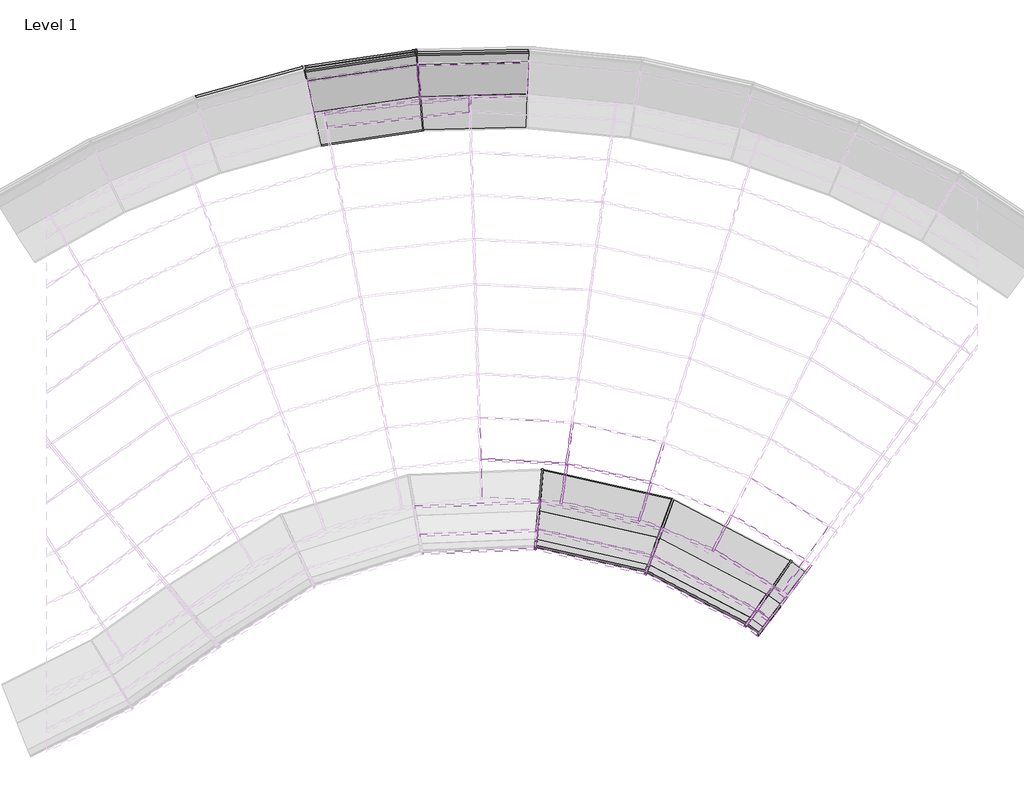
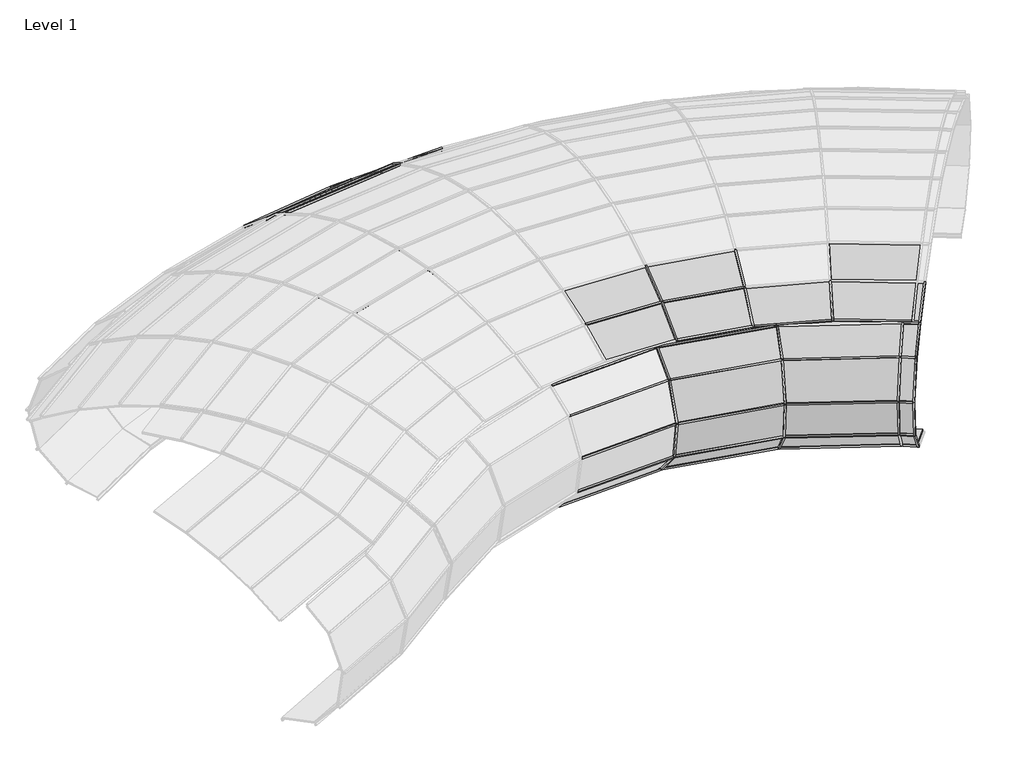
# One storey, part 10 of 23: 65 members, 34 plates.
"""IFC4 building model written with IfcOpenShell, lengths in millimetres."""

from ifc_helpers import new_model, si_unit, origin, place, context, project, spatial, transform, mapped, element, save
from components import member_a1596450, member_54d4a950, member_a2486feb, member_89e98a43, member_bff08ed3, member_4c2c1438, member_ab9de9a3, member_4657b864, member_20147643, member_c3b58052, member_3a0dd7d7, member_dc232313, member_f0155a20, member_775132e8, member_15538b30, member_b171f0c8, member_07455e61, member_515abc7c, member_6834bcaf, member_a3fa0b53, member_b335b832, member_d6b8231b, member_649bdf5e, member_35237229, member_65ac7dc4, member_b70cd57a, member_0f5467c3, member_8c9da58c, member_391bee44, member_01ebdf2a, member_ff9adfd2, member_0cd36c09, member_e4cc2466, system_panel_glazed_7c909565, system_panel_glazed_945bf34b, system_panel_glazed_45ca7c27, system_panel_glazed_a1cfa193, system_panel_glazed_82840720, system_panel_glazed_bab3f386, system_panel_glazed_217bc4a3, system_panel_glazed_956d20dc, system_panel_glazed_a2d5a43f, system_panel_glazed_a2ddec3e, system_panel_glazed_d9dfaa20, system_panel_glazed_a0058e6f, system_panel_glazed_11031df9, system_panel_glazed_45b4e97c, system_panel_glazed_9a1bcf3f, system_panel_glazed_a2a57e74, system_panel_glazed_56180ac8, system_panel_glazed_7dd4ad5a, system_panel_glazed_672f498d

model = new_model("IFC4")

# Units and contexts
model_context = context("Model", 3, world=origin())
ifc_project = project(units=[si_unit("LENGTHUNIT", "METRE", prefix="MILLI")], contexts=[model_context])

# Site, building, storey
site = spatial("IfcSite", under=ifc_project)
building = spatial("IfcBuilding", under=site)
storey = spatial("IfcBuildingStorey", under=building, Name="Level 1", Elevation=0.0)

# Members
placement = place(None, origin())
member_shape = member_a1596450(model_context)
element("IfcMember", 1, ObjectType="Rectangular Mullion : 1\" Square", at=placement, inside=storey, context=model_context, shape_type="MappedRepresentation", body=[
    mapped(member_shape, transform((1937.8242171, -7608.1808848, 629.7792003), x_axis=(-0.09290409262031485, -0.4128159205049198, 0.9060639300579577), y_axis=(-0.19893388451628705, -0.8839554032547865, -0.4231408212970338), z_axis=(0.9755993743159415, -0.21955833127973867, 0.0))),
])
element("IfcMember", 2, ObjectType="Rectangular Mullion : 1\" Square", at=placement, inside=storey, context=model_context, shape_type="MappedRepresentation", body=[
    mapped(member_shape, transform((430.780423, -7272.382286, 629.7792003), x_axis=(0.01683445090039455, -0.4228058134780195, 0.9060639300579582), y_axis=(0.036047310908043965, -0.9053465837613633, -0.42314082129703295), z_axis=(0.9992082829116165, 0.03978451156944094, 0.0))),
])
element("IfcMember", 3, ObjectType="Rectangular Mullion : 1\" Square", at=placement, inside=storey, context=model_context, shape_type="MappedRepresentation", body=[
    mapped(member_shape, transform((3307.0644921, -8321.7092764, 629.7792003), x_axis=(-0.19634224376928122, -0.3748304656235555, 0.9060639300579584), y_axis=(-0.42042416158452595, -0.8026178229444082, -0.4231408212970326), z_axis=(0.8858291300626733, -0.46401158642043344, 0.0))),
])
member_2_shape = member_54d4a950(model_context)
element("IfcMember", 4, ObjectType="Rectangular Mullion : 1\" Square", at=placement, inside=storey, context=model_context, shape_type="MappedRepresentation", body=[
    mapped(member_2_shape, transform((3720.0943333, -8124.4965776, 170.8694653), x_axis=(-0.49772434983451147, -0.6800295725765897, 0.5383588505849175), y_axis=(-0.31796525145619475, -0.434428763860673, -0.8427156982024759), z_axis=(0.8069501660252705, -0.590619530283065, 0.0))),
])
member_3_shape = member_a2486feb(model_context)
element("IfcMember", 5, ObjectType="Rectangular Mullion : 1\" Square", at=placement, inside=storey, context=model_context, shape_type="MappedRepresentation", body=[
    mapped(member_3_shape, transform((3537.9538895, -7993.5262462, 170.8694653), x_axis=(-0.39171959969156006, -0.7478188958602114, 0.5360248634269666), y_axis=(-0.2487217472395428, -0.4748264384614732, -0.8442021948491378), z_axis=(0.8858291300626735, -0.4640115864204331, 0.0))),
])
element("IfcMember", 6, ObjectType="Rectangular Mullion : 1\" Square", at=placement, inside=storey, context=model_context, shape_type="MappedRepresentation", body=[
    mapped(member_3_shape, transform((2076.1483229, -7231.5106618, 170.8694653), x_axis=(-0.1853516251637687, -0.8236031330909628, 0.536024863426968), y_axis=(-0.11768872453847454, -0.522945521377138, -0.8442021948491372), z_axis=(0.9755993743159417, -0.21955833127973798, 0.0))),
])
element("IfcMember", 7, ObjectType="Rectangular Mullion : 1\" Square", at=placement, inside=storey, context=model_context, shape_type="MappedRepresentation", body=[
    mapped(member_3_shape, transform((467.1586371, -6872.7691723, 170.8694653), x_axis=(0.033586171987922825, -0.8435338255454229, 0.5360248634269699), y_axis=(0.021325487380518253, -0.5356004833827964, -0.8442021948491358), z_axis=(0.9992082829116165, 0.03978451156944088, 0.0))),
])
member_4_shape = member_89e98a43(model_context)
element("IfcMember", 8, ObjectType="Rectangular Mullion : 1\" Square", at=placement, inside=storey, context=model_context, shape_type="MappedRepresentation", body=[
    mapped(member_4_shape, transform((3571.6491551, -8319.5415222, 1789.6405438), x_axis=(0.38131745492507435, 0.5209854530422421, 0.7636564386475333), y_axis=(-0.45103040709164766, -0.6162326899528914, 0.6456228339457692), z_axis=(0.8069501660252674, -0.5906195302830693, 0.0))),
])
member_5_shape = member_bff08ed3(model_context)
element("IfcMember", 9, ObjectType="Rectangular Mullion : 1\" Square", at=placement, inside=storey, context=model_context, shape_type="MappedRepresentation", body=[
    mapped(member_5_shape, transform((545.2888209, -6292.2989472, 0.0), x_axis=(0.21061428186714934, 0.9358568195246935, -0.28251307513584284), y_axis=(-0.06202809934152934, -0.2756195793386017, -0.9592634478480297), z_axis=(-0.9755993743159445, 0.21955833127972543, 0.0))),
])
member_6_shape = member_4c2c1438(model_context)
element("IfcMember", 10, ObjectType="Rectangular Mullion : 1\" Square", at=placement, inside=storey, context=model_context, shape_type="MappedRepresentation", body=[
    mapped(member_6_shape, transform((422.5065991, -7363.2698842, 1232.5089476), x_axis=(-0.005343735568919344, 0.13421064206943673, 0.9909384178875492), y_axis=(0.0394240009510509, -0.990153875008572, 0.13431698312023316), z_axis=(0.9992082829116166, 0.039784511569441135, 0.0))),
])
element("IfcMember", 11, ObjectType="Rectangular Mullion : 1\" Square", at=placement, inside=storey, context=model_context, shape_type="MappedRepresentation", body=[
    mapped(member_6_shape, transform((1906.3639239, -7693.8503754, 1232.5089476), x_axis=(0.02949041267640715, 0.13103956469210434, 0.9909384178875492), y_axis=(-0.21756878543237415, -0.9667589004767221, 0.13431698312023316), z_axis=(0.9755993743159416, -0.21955833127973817, 0.0))),
])
element("IfcMember", 12, ObjectType="Rectangular Mullion : 1\" Square", at=placement, inside=storey, context=model_context, shape_type="MappedRepresentation", body=[
    mapped(member_6_shape, transform((3254.5512436, -8396.3508895, 1232.5089476), x_axis=(0.062324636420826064, 0.11898189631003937, 0.9909384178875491), y_axis=(-0.4598069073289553, -0.87780211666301, 0.1343169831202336), z_axis=(0.8858291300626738, -0.46401158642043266, 0.0))),
])
member_7_shape = member_ab9de9a3(model_context)
element("IfcMember", 13, ObjectType="Rectangular Mullion : 1\" Square", at=placement, inside=storey, context=model_context, shape_type="MappedRepresentation", body=[
    mapped(member_7_shape, transform((3421.8046036, -8516.4251299, 1232.5089476), x_axis=(0.0787840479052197, 0.10764087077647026, 0.9910633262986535), y_axis=(-0.5853413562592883, -0.7997387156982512, 0.1333922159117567), z_axis=(0.8069501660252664, -0.5906195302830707, 0.0))),
])
member_8_shape = member_4657b864(model_context)
element("IfcMember", 14, ObjectType="Rectangular Mullion : 1\" Square", at=placement, inside=storey, context=model_context, shape_type="MappedRepresentation", body=[
    mapped(member_8_shape, transform((444.9373567, -7116.8689799, 1789.6405438), x_axis=(-0.02578620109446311, 0.6476335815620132, 0.7615154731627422), y_axis=(0.030296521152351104, -0.7609125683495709, 0.6481467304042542), z_axis=(0.9992082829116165, 0.03978451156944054, 0.0))),
])
element("IfcMember", 15, ObjectType="Rectangular Mullion : 1\" Square", at=placement, inside=storey, context=model_context, shape_type="MappedRepresentation", body=[
    mapped(member_8_shape, transform((1991.65438, -7461.5960263, 1789.6405438), x_axis=(0.14230601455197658, 0.6323315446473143, 0.7615154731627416), y_axis=(-0.16719706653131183, -0.7429340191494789, 0.648146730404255), z_axis=(0.9755993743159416, -0.21955833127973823, 0.0))),
])
element("IfcMember", 16, ObjectType="Rectangular Mullion : 1\" Square", at=placement, inside=storey, context=model_context, shape_type="MappedRepresentation", body=[
    mapped(member_8_shape, transform((3396.917333, -8193.9936778, 1789.6405438), x_axis=(0.30074759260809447, 0.574147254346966, 0.7615154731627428), y_axis=(-0.353352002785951, -0.6745725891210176, 0.6481467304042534), z_axis=(0.8858291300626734, -0.4640115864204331, 0.0))),
])
member_9_shape = member_20147643(model_context)
element("IfcMember", 17, ObjectType="Rectangular Mullion : 1\" Square", at=placement, inside=storey, context=model_context, shape_type="MappedRepresentation", body=[
    mapped(member_9_shape, transform((3477.0763625, -8443.802514, 629.7792003), x_axis=(-0.24849482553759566, -0.3395128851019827, 0.9071831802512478), y_axis=(-0.535800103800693, -0.7320516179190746, -0.4207358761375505), z_axis=(0.8069501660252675, -0.5906195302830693, 0.0))),
])
member_10_shape = member_c3b58052(model_context)
element("IfcMember", 18, ObjectType="Rectangular Mullion : 1\" Square", at=placement, inside=storey, context=model_context, shape_type="MappedRepresentation", body=[
    mapped(member_10_shape, transform((3813.2347181, -8002.1176536, 2085.6089632), x_axis=(0.4742900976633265, 0.6480118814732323, 0.5959274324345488), y_axis=(-0.3519663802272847, -0.4808837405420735, 0.8030382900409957), z_axis=(0.8069501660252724, -0.5906195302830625, 0.0))),
])
member_11_shape = member_3a0dd7d7(model_context)
element("IfcMember", 19, ObjectType="Rectangular Mullion : 1\" Square", at=placement, inside=storey, context=model_context, shape_type="MappedRepresentation", body=[
    mapped(member_11_shape, transform((481.1011487, -6719.6112842, 2085.6089632), x_axis=(-0.03185310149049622, 0.8000068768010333, 0.599144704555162), y_axis=(0.02383667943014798, -0.5986703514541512, 0.8006407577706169), z_axis=(0.9992082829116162, 0.03978451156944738, 0.0))),
])
element("IfcMember", 20, ObjectType="Rectangular Mullion : 1\" Square", at=placement, inside=storey, context=model_context, shape_type="MappedRepresentation", body=[
    mapped(member_11_shape, transform((2129.1631695, -7087.1459903, 2085.6089632), x_axis=(0.175787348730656, 0.7811046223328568, 0.5991447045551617), y_axis=(-0.1315472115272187, -0.5845251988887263, 0.8006407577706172), z_axis=(0.9755993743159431, -0.21955833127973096, 0.0))),
])
member_12_shape = member_dc232313(model_context)
element("IfcMember", 21, ObjectType="Rectangular Mullion : 1\" Square", at=placement, inside=storey, context=model_context, shape_type="MappedRepresentation", body=[
    mapped(member_12_shape, transform((1981.7156999, -6472.7178899, 2378.3537392), x_axis=(0.19667028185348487, 0.8830510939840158, 0.42607694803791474), y_axis=(-0.09262505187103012, -0.4158872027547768, 0.904686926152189), z_axis=(0.9760847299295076, -0.21739043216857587, 0.0))),
])
element("IfcMember", 22, ObjectType="Rectangular Mullion : 1\" Square", at=placement, inside=storey, context=model_context, shape_type="MappedRepresentation", body=[
    mapped(member_12_shape, transform((846.6753747, -6222.0725929, 2378.3537392), x_axis=(0.04824525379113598, 0.9033995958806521, 0.42607694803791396), y_axis=(-0.022721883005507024, -0.4254706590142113, 0.9046869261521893), z_axis=(0.9985770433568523, -0.05332812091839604, 0.0))),
])
member_13_shape = member_f0155a20(model_context)
element("IfcMember", 23, ObjectType="Rectangular Mullion : 1\" Square", at=placement, inside=storey, context=model_context, shape_type="MappedRepresentation", body=[
    mapped(member_13_shape, transform((-452.7880414, -1470.8365713, 2208.6526723), x_axis=(-0.09781407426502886, 0.8663052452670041, -0.4898444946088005), y_axis=(-0.054958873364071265, 0.48675163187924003, 0.8718098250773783), z_axis=(0.9936860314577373, 0.11219657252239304, 0.0))),
])
member_14_shape = member_775132e8(model_context)
element("IfcMember", 24, ObjectType="Rectangular Mullion : 1\" Square", at=placement, inside=storey, context=model_context, shape_type="MappedRepresentation", body=[
    mapped(member_14_shape, transform((-458.8914905, -1264.2798166, 2085.6089632), x_axis=(-0.09631462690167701, 0.8530251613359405, -0.5129050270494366), y_axis=(-0.05754618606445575, 0.5096665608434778, 0.8584453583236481), z_axis=(0.9936860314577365, 0.11219657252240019, 0.0))),
])
member_15_shape = member_15538b30(model_context)
element("IfcMember", 25, ObjectType="Rectangular Mullion : 1\" Square", at=placement, inside=storey, context=model_context, shape_type="MappedRepresentation", body=[
    mapped(member_15_shape, transform((799.1265111, -6755.2634581, 2085.6089632), x_axis=(-0.1905314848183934, -0.855487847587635, -0.4814958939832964), y_axis=(-0.10467260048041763, -0.469980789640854, 0.8764483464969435), z_axis=(-0.9760847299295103, 0.21739043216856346, 0.0))),
])
element("IfcMember", 26, ObjectType="Rectangular Mullion : 1\" Square", at=placement, inside=storey, context=model_context, shape_type="MappedRepresentation", body=[
    mapped(member_15_shape, transform((1846.8271886, -6990.7511733, 2085.6089632), x_axis=(-0.32909880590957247, -0.8123150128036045, -0.481495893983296), y_axis=(-0.1807975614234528, -0.44626285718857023, 0.8764483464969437), z_axis=(-0.9268258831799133, 0.37549138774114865, 0.0))),
])
element("IfcMember", 27, ObjectType="Rectangular Mullion : 1\" Square", at=placement, inside=storey, context=model_context, shape_type="MappedRepresentation", body=[
    mapped(member_15_shape, transform((2841.3005164, -7395.9103693, 2085.6089632), x_axis=(-0.4586414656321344, -0.7468665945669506, -0.4814958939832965), y_axis=(-0.2519646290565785, -0.4103073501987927, 0.8764483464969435), z_axis=(-0.8521512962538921, 0.5232954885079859, 0.0))),
])
member_16_shape = member_b171f0c8(model_context)
element("IfcMember", 28, ObjectType="Rectangular Mullion : 1\" Square", at=placement, inside=storey, context=model_context, shape_type="MappedRepresentation", body=[
    mapped(member_16_shape, transform((-2688.7292646, -873.3181719, 1116.1918244), x_axis=(-0.007013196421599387, 0.025585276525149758, -0.9996480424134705), y_axis=(-0.264265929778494, 0.9640849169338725, 0.02652906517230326), z_axis=(0.9644243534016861, 0.26435897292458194, 0.0))),
])
element("IfcMember", 29, ObjectType="Rectangular Mullion : 1\" Square", at=placement, inside=storey, context=model_context, shape_type="MappedRepresentation", body=[
    mapped(member_16_shape, transform((-1178.613692, -649.6002551, 1116.1918244), x_axis=(-0.0038612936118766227, 0.02624655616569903, -0.9996480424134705), y_axis=(-0.1454983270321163, 0.9890027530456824, 0.026529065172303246), z_axis=(0.9893509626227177, 0.14554955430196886, 0.0))),
])
member_17_shape = member_07455e61(model_context)
element("IfcMember", 30, ObjectType="Rectangular Mullion : 1\" Square", at=placement, inside=storey, context=model_context, shape_type="MappedRepresentation", body=[
    mapped(member_17_shape, transform((-1165.3754738, -804.359432, 526.7119632), x_axis=(0.0751931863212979, -0.5111142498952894, -0.8562173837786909), y_axis=(-0.12462205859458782, 0.8470994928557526, -0.5166157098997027), z_axis=(0.9893509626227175, 0.14554955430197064, 0.0))),
])
member_18_shape = member_515abc7c(model_context)
element("IfcMember", 31, ObjectType="Rectangular Mullion : 1\" Square", at=placement, inside=storey, context=model_context, shape_type="MappedRepresentation", body=[
    mapped(member_18_shape, transform((-1162.7358687, -835.2172935, 1696.6281859), x_axis=(-0.08168989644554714, 0.5552746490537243, -0.8276453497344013), y_axis=(-0.12046341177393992, 0.8188317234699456, 0.5612514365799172), z_axis=(0.9893509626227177, 0.1455495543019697, 0.0))),
])
member_19_shape = member_6834bcaf(model_context)
element("IfcMember", 32, ObjectType="Rectangular Mullion : 1\" Square", at=placement, inside=storey, context=model_context, shape_type="MappedRepresentation", body=[
    mapped(member_19_shape, transform((-1127.1815513, -1250.8590977, 113.4427618), x_axis=(0.13045184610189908, -0.8867265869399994, -0.4435067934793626), y_axis=(-0.06455221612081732, 0.4387838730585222, -0.8962710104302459), z_axis=(0.9893509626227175, 0.14554955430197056, 0.0))),
])
member_20_shape = member_a3fa0b53(model_context)
element("IfcMember", 33, ObjectType="Rectangular Mullion : 1\" Square", at=placement, inside=storey, context=model_context, shape_type="MappedRepresentation", body=[
    mapped(member_20_shape, transform((-1085.9662712, -1732.6794402, 0.0), x_axis=(0.1416890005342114, -0.9631094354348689, -0.22878907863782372), y_axis=(-0.033300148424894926, 0.22635269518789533, -0.9734760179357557), z_axis=(0.9893509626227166, 0.14554955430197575, 0.0))),
])
member_21_shape = member_b335b832(model_context)
element("IfcMember", 34, ObjectType="Rectangular Mullion : 1\" Square", at=placement, inside=storey, context=model_context, shape_type="MappedRepresentation", body=[
    mapped(member_21_shape, transform((-2529.287223, -1509.8042855, 2085.6089632), x_axis=(0.11198310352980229, -0.7611881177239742, 0.6387898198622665), y_axis=(-0.09297557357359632, 0.6319873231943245, 0.7693812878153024), z_axis=(-0.9893509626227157, -0.1455495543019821, 0.0))),
])
element("IfcMember", 35, ObjectType="Rectangular Mullion : 1\" Square", at=placement, inside=storey, context=model_context, shape_type="MappedRepresentation", body=[
    mapped(member_21_shape, transform((-1097.470967, -1300.7163704, 2085.6089632), x_axis=(0.01892306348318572, -0.7691485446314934, 0.6387898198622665), y_axis=(-0.015711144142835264, 0.6385965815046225, 0.7693812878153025), z_axis=(-0.9996974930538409, -0.02459516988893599, 0.0))),
])
member_22_shape = member_d6b8231b(model_context)
element("IfcMember", 36, ObjectType="Rectangular Mullion : 1\" Square", at=placement, inside=storey, context=model_context, shape_type="MappedRepresentation", body=[
    mapped(member_22_shape, transform((3885.9085112, -7520.8318934, 0.0), x_axis=(0.8178700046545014, -0.5754030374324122, 0.0), y_axis=(-0.1612841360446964, -0.22924706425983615, -0.9599131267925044), z_axis=(0.5523369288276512, 0.7850841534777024, -0.28029767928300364))),
])
element("IfcMember", 37, ObjectType="Rectangular Mullion : 1\" Square", at=placement, inside=storey, context=model_context, shape_type="MappedRepresentation", body=[
    mapped(member_22_shape, transform((532.8987089, -6289.5105564, 0.0), x_axis=(0.9958820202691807, -0.09065871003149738, 0.0), y_axis=(-0.02541142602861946, -0.27914341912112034, -0.9599131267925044), z_axis=(0.08702448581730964, 0.9559602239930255, -0.2802976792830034))),
])
member_23_shape = member_649bdf5e(model_context)
element("IfcMember", 38, ObjectType="Rectangular Mullion : 1\" Square", at=placement, inside=storey, context=model_context, shape_type="MappedRepresentation", body=[
    mapped(member_23_shape, transform((3740.5908675, -8139.4983136, 170.8694653), x_axis=(0.8020965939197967, -0.5971221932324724, 0.009281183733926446), y_axis=(-0.44465493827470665, -0.6075220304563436, -0.6581785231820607), z_axis=(0.39865152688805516, 0.5237958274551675, -0.7528046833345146))),
])
member_24_shape = member_35237229(model_context)
element("IfcMember", 39, ObjectType="Rectangular Mullion : 1\" Square", at=placement, inside=storey, context=model_context, shape_type="MappedRepresentation", body=[
    mapped(member_24_shape, transform((3497.5728968, -8458.8042501, 629.7792003), x_axis=(0.8066991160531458, -0.590955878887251, 0.002772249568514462), y_axis=(-0.5839654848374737, -0.79785889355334, -0.14968466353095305), z_axis=(0.09066889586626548, 0.11913158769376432, -0.9887299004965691))),
])
member_25_shape = member_65ac7dc4(model_context)
element("IfcMember", 40, ObjectType="Rectangular Mullion : 1\" Square", at=placement, inside=storey, context=model_context, shape_type="MappedRepresentation", body=[
    mapped(member_25_shape, transform((3442.3011378, -8531.4268659, 1232.5089476), x_axis=(0.8051049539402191, -0.5930916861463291, -0.0069472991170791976), y_axis=(-0.5398003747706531, -0.7375170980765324, 0.4058128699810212), z_axis=(-0.2458079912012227, -0.3229717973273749, -0.9139297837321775))),
])
member_26_shape = member_b70cd57a(model_context)
element("IfcMember", 41, ObjectType="Rectangular Mullion : 1\" Square", at=placement, inside=storey, context=model_context, shape_type="MappedRepresentation", body=[
    mapped(member_26_shape, transform((3592.1456893, -8334.5432583, 1789.6405438), x_axis=(0.7997252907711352, -0.6002991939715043, -0.008963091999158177), y_axis=(-0.35196638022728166, -0.480883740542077, 0.8030382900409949), z_axis=(-0.48637344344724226, -0.639055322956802, -0.5958600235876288))),
])
member_27_shape = member_0f5467c3(model_context)
element("IfcMember", 42, ObjectType="Rectangular Mullion : 1\" Square", at=placement, inside=storey, context=model_context, shape_type="MappedRepresentation", body=[
    mapped(member_27_shape, transform((3833.7312523, -8017.1193897, 2085.6089632), x_axis=(0.7969242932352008, -0.6040686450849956, -0.003569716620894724), y_axis=(-0.2875968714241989, -0.38459878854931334, 0.8771384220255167), z_axis=(-0.5312247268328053, -0.6979862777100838, -0.48022437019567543))),
])
member_28_shape = member_8c9da58c(model_context)
element("IfcMember", 43, ObjectType="Rectangular Mullion : 1\" Square", at=placement, inside=storey, context=model_context, shape_type="MappedRepresentation", body=[
    mapped(member_28_shape, transform((479.8485823, -6872.263909, 170.8694653), x_axis=(0.9958820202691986, -0.09065871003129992, 0.0), y_axis=(-0.06824830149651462, -0.7497046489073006, -0.6582439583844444), z_axis=(0.059675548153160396, 0.655533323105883, -0.7528046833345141))),
])
element("IfcMember", 44, ObjectType="Rectangular Mullion : 1\" Square", at=placement, inside=storey, context=model_context, shape_type="MappedRepresentation", body=[
    mapped(member_28_shape, transform((2088.538435, -7234.2990526, 170.8694653), x_axis=(0.9387056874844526, -0.3447196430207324, 0.0), y_axis=(-0.259506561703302, -0.7066620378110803, -0.6582439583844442), z_axis=(0.22690962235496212, 0.6178973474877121, -0.7528046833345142))),
])
element("IfcMember", 45, ObjectType="Rectangular Mullion : 1\" Square", at=placement, inside=storey, context=model_context, shape_type="MappedRepresentation", body=[
    mapped(member_28_shape, transform((443.4703682, -7271.8770227, 629.7792003), x_axis=(0.9958820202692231, -0.09065871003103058, 0.0), y_axis=(-0.08963697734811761, -0.9846583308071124, -0.1497103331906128), z_axis=(0.013572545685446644, 0.14909382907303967, -0.9887299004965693))),
])
element("IfcMember", 46, ObjectType="Rectangular Mullion : 1\" Square", at=placement, inside=storey, context=model_context, shape_type="MappedRepresentation", body=[
    mapped(member_28_shape, transform((1950.2143292, -7610.9692756, 629.7792003), x_axis=(0.9387056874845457, -0.3447196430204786, 0.0), y_axis=(-0.34083461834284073, -0.9281263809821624, -0.1497103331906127), z_axis=(0.05160809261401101, 0.14053394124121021, -0.9887299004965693))),
])
element("IfcMember", 47, ObjectType="Rectangular Mullion : 1\" Square", at=placement, inside=storey, context=model_context, shape_type="MappedRepresentation", body=[
    mapped(member_28_shape, transform((3318.3145221, -8327.6022236, 629.7792003), x_axis=(0.817870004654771, -0.575403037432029, 0.0), y_axis=(-0.568918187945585, -0.8086525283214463, -0.1497103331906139), z_axis=(0.08614378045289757, 0.12244359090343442, -0.9887299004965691))),
])
member_29_shape = member_391bee44(model_context)
element("IfcMember", 48, ObjectType="Rectangular Mullion : 1\" Square", at=placement, inside=storey, context=model_context, shape_type="MappedRepresentation", body=[
    mapped(member_29_shape, transform((435.1965443, -7362.7646209, 1232.5089476), x_axis=(0.9958820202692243, -0.09065871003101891, 0.0), y_axis=(-0.08285569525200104, -0.9101662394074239, 0.4058723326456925), z_axis=(-0.036795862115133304, -0.40420095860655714, -0.9139297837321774))),
])
element("IfcMember", 49, ObjectType="Rectangular Mullion : 1\" Square", at=placement, inside=storey, context=model_context, shape_type="MappedRepresentation", body=[
    mapped(member_29_shape, transform((1918.7540359, -7696.6387662, 1232.5089476), x_axis=(0.93870568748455, -0.34471964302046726, 0.0), y_axis=(-0.3150495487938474, -0.8579110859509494, 0.405872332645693), z_axis=(-0.13991216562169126, -0.38099466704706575, -0.9139297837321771))),
])
element("IfcMember", 50, ObjectType="Rectangular Mullion : 1\" Square", at=placement, inside=storey, context=model_context, shape_type="MappedRepresentation", body=[
    mapped(member_29_shape, transform((3265.8012735, -8402.2438366, 1232.5089476), x_axis=(0.8178700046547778, -0.5754030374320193, 0.0), y_axis=(-0.5258779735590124, -0.7474757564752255, 0.4058723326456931), z_axis=(-0.23354017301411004, -0.3319508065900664, -0.913929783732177))),
])
member_30_shape = member_01ebdf2a(model_context)
element("IfcMember", 51, ObjectType="Rectangular Mullion : 1\" Square", at=placement, inside=storey, context=model_context, shape_type="MappedRepresentation", body=[
    mapped(member_30_shape, transform((457.6273019, -7116.3637166, 1789.6405438), x_axis=(0.9958820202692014, -0.09065871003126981, 0.0), y_axis=(-0.05401990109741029, -0.5934062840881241, 0.8030883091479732), z_axis=(-0.0728069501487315, -0.7997812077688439, -0.5958600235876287))),
])
element("IfcMember", 52, ObjectType="Rectangular Mullion : 1\" Square", at=placement, inside=storey, context=model_context, shape_type="MappedRepresentation", body=[
    mapped(member_30_shape, transform((2004.0444921, -7464.3844172, 1789.6405438), x_axis=(0.938705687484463, -0.34471964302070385, 0.0), y_axis=(-0.205404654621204, -0.5593371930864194, 0.8030883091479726), z_axis=(-0.2768403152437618, -0.7538635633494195, -0.5958600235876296))),
])
element("IfcMember", 53, ObjectType="Rectangular Mullion : 1\" Square", at=placement, inside=storey, context=model_context, shape_type="MappedRepresentation", body=[
    mapped(member_30_shape, transform((3408.167363, -8199.8866249, 1789.6405438), x_axis=(0.8178700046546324, -0.5754030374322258, 0.0), y_axis=(-0.3428596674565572, -0.48733604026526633, 0.8030883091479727), z_axis=(-0.46209945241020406, -0.6568218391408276, -0.5958600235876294))),
])
member_31_shape = member_ff9adfd2(model_context)
element("IfcMember", 54, ObjectType="Rectangular Mullion : 1\" Square", at=placement, inside=storey, context=model_context, shape_type="MappedRepresentation", body=[
    mapped(member_31_shape, transform((-440.1682288, -1469.4116748, 2208.6526723), x_axis=(0.9995637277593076, 0.0295356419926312, 0.0), y_axis=(-0.015110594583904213, 0.5113822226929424, 0.8592205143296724), z_axis=(0.025377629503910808, -0.8588456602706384, 0.5116054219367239))),
])
member_32_shape = member_0cd36c09(model_context)
element("IfcMember", 55, ObjectType="Rectangular Mullion : 1\" Square", at=placement, inside=storey, context=model_context, shape_type="MappedRepresentation", body=[
    mapped(member_32_shape, transform((859.3573032, -6222.74986, 2378.3537392), x_axis=(0.9907327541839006, -0.13582565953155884, 0.0), y_axis=(-0.05057792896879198, -0.3689230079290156, 0.9280828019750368), z_axis=(-0.12605745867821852, -0.9194820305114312, -0.3723738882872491))),
])
element("IfcMember", 56, ObjectType="Rectangular Mullion : 1\" Square", at=placement, inside=storey, context=model_context, shape_type="MappedRepresentation", body=[
    mapped(member_32_shape, transform((1994.1119759, -6475.4787484, 2378.3537392), x_axis=(0.9547335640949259, -0.29746230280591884, 0.0), y_axis=(-0.11076719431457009, -0.3555178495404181, 0.9280828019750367), z_axis=(-0.2760696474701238, -0.8860718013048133, -0.37237388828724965))),
])
member_33_shape = member_e4cc2466(model_context)
element("IfcMember", 57, ObjectType="Rectangular Mullion : 1\" Square", at=placement, inside=storey, context=model_context, shape_type="MappedRepresentation", body=[
    mapped(member_33_shape, transform((2830.4781949, -7389.2645166, 2085.6089632), x_axis=(0.8925533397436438, -0.4509418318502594, 0.0), y_axis=(-0.21655325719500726, -0.42862586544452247, 0.8771456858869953), z_axis=(-0.3955416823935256, -0.7828993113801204, -0.48022437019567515))),
])
element("IfcMember", 58, ObjectType="Rectangular Mullion : 1\" Square", at=placement, inside=storey, context=model_context, shape_type="MappedRepresentation", body=[
    mapped(member_33_shape, transform((1835.0564999, -6985.9824326, 2085.6089632), x_axis=(0.9547335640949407, -0.29746230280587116, 0.0), y_axis=(-0.14284864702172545, -0.4584863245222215, 0.8771456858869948), z_axis=(-0.260917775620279, -0.8374404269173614, -0.4802243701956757))),
])
element("IfcMember", 59, ObjectType="Rectangular Mullion : 1\" Square", at=placement, inside=storey, context=model_context, shape_type="MappedRepresentation", body=[
    mapped(member_33_shape, transform((786.7302351, -6752.5025996, 2085.6089632), x_axis=(0.9907327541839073, -0.13582565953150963, 0.0), y_axis=(-0.06522679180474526, -0.4757740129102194, 0.8771456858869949), z_axis=(-0.11913889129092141, -0.8690169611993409, -0.48022437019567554))),
])
element("IfcMember", 60, ObjectType="Rectangular Mullion : 1\" Square", at=placement, inside=storey, context=model_context, shape_type="MappedRepresentation", body=[
    mapped(member_28_shape, transform((-2676.4810754, -869.9608129, 1116.1918244), x_axis=(0.9786921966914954, 0.20533286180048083, 0.0), y_axis=(-0.1985557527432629, 0.946389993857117, -0.25479715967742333), z_axis=(-0.05231822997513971, 0.24936799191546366, 0.9669945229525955))),
])
element("IfcMember", 61, ObjectType="Rectangular Mullion : 1\" Square", at=placement, inside=storey, context=model_context, shape_type="MappedRepresentation", body=[
    mapped(member_28_shape, transform((-1150.1711115, -833.3688141, 1696.6281859), x_axis=(0.9963613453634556, 0.08522951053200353, 0.0), y_axis=(-0.08115207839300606, 0.9486948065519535, 0.3056018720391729), z_axis=(0.026046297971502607, -0.304489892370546, 0.9521593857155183))),
])
element("IfcMember", 62, ObjectType="Rectangular Mullion : 1\" Square", at=placement, inside=storey, context=model_context, shape_type="MappedRepresentation", body=[
    mapped(member_28_shape, transform((-1166.0489348, -647.7517757, 1116.1918244), x_axis=(0.996361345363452, 0.08522951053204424, 0.0), y_axis=(-0.08241646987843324, 0.9634759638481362, -0.2547971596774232), z_axis=(-0.021716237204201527, 0.2538700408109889, 0.9669945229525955))),
])
element("IfcMember", 63, ObjectType="Rectangular Mullion : 1\" Square", at=placement, inside=storey, context=model_context, shape_type="MappedRepresentation", body=[
    mapped(member_29_shape, transform((-1152.8107166, -802.5109526, 526.7119632), x_axis=(0.99636134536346, 0.08522951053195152, 0.0), y_axis=(-0.057780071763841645, 0.6754682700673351, -0.7351218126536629), z_axis=(-0.06265407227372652, 0.7324469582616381, 0.6779350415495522))),
])
element("IfcMember", 64, ObjectType="Rectangular Mullion : 1\" Square", at=placement, inside=storey, context=model_context, shape_type="MappedRepresentation", body=[
    mapped(member_30_shape, transform((-1114.6167941, -1249.0106184, 113.4427618), x_axis=(0.9963613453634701, 0.08522951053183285, 0.0), y_axis=(-0.01946550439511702, 0.22755822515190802, -0.9735698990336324), z_axis=(-0.08297688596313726, 0.97002741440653, 0.2283892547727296))),
])
element("IfcMember", 65, ObjectType="Rectangular Mullion : 1\" Square", at=placement, inside=storey, context=model_context, shape_type="MappedRepresentation", body=[
    mapped(member_22_shape, transform((-1110.1671252, -1301.028729, 2085.6089632), x_axis=(0.9963613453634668, 0.08522951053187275, 0.0), y_axis=(-0.054384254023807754, 0.635770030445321, 0.7699602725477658), z_axis=(0.06562333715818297, -0.7671586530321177, 0.6380918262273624))),
])

# Plates
system_panel_glazed_shape = system_panel_glazed_7c909565(model_context)
element("IfcPlate", 66, ObjectType="System Panel : Glazed", at=placement, inside=storey, context=model_context, shape_type="MappedRepresentation", body=[
    mapped(system_panel_glazed_shape, transform((1406.2275667, -6511.0276299, 7.1758321), x_axis=(0.9755993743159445, -0.21955833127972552, 0.0), y_axis=(0.062028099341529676, 0.27561957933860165, 0.9592634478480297), z_axis=(-0.21061428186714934, -0.9358568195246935, 0.28251307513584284))),
])
element("IfcPlate", 67, ObjectType="System Panel : Glazed", at=placement, inside=storey, context=model_context, shape_type="MappedRepresentation", body=[
    mapped(system_panel_glazed_shape, transform((3076.776293, -7124.5010201, 7.1758321), x_axis=(0.8858291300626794, -0.464011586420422, 0.0), y_axis=(0.13108934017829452, 0.2502583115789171, 0.9592634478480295), z_axis=(-0.445109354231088, -0.8497435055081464, 0.2825130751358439))),
])
system_panel_glazed_2_shape = system_panel_glazed_945bf34b(model_context)
element("IfcPlate", 68, ObjectType="System Panel : Glazed", at=placement, inside=storey, context=model_context, shape_type="MappedRepresentation", body=[
    mapped(system_panel_glazed_2_shape, transform((3970.9203707, -7613.2677401, 7.1207118), x_axis=(0.8069501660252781, -0.5906195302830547, 0.0), y_axis=(0.1655760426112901, 0.22622281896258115, 0.9598998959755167), z_axis=(-0.5669356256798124, -0.7745913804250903, 0.28034298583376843))),
])
system_panel_glazed_3_shape = system_panel_glazed_45ca7c27(model_context)
element("IfcPlate", 69, ObjectType="System Panel : Glazed", at=placement, inside=storey, context=model_context, shape_type="MappedRepresentation", body=[
    mapped(system_panel_glazed_3_shape, transform((1282.3669717, -7061.3976308, 180.4653952), x_axis=(0.9755993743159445, -0.21955833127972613, 0.0), y_axis=(0.1658949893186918, 0.7371482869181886, 0.6550505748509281), z_axis=(-0.1438218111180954, -0.639066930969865, 0.7555850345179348))),
])
element("IfcPlate", 70, ObjectType="System Panel : Glazed", at=placement, inside=storey, context=model_context, shape_type="MappedRepresentation", body=[
    mapped(system_panel_glazed_3_shape, transform((2815.0109988, -7624.2284615, 180.4653952), x_axis=(0.8858291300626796, -0.46401158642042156, 0.0), y_axis=(0.35060021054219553, 0.6693192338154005, 0.6550505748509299), z_axis=(-0.3039510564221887, -0.5802628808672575, 0.7555850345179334))),
])
system_panel_glazed_4_shape = system_panel_glazed_a1cfa193(model_context)
element("IfcPlate", 71, ObjectType="System Panel : Glazed", at=placement, inside=storey, context=model_context, shape_type="MappedRepresentation", body=[
    mapped(system_panel_glazed_4_shape, transform((3634.8359603, -8072.4532238, 180.4308113), x_axis=(0.8069501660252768, -0.5906195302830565, 0.0), y_axis=(0.44465493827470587, 0.6075220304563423, 0.6581785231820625), z_axis=(-0.38873309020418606, -0.5311172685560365, 0.752861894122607))),
])
system_panel_glazed_5_shape = system_panel_glazed_82840720(model_context)
element("IfcPlate", 72, ObjectType="System Panel : Glazed", at=placement, inside=storey, context=model_context, shape_type="MappedRepresentation", body=[
    mapped(system_panel_glazed_5_shape, transform((1196.428373, -7443.262635, 642.3384564), x_axis=(0.9755993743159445, -0.2195583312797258, 0.0), y_axis=(0.21712514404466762, 0.9647875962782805, 0.1484640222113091), z_axis=(-0.032596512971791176, -0.14484140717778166, 0.9889178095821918))),
])
element("IfcPlate", 73, ObjectType="System Panel : Glazed", at=placement, inside=storey, context=model_context, shape_type="MappedRepresentation", body=[
    mapped(system_panel_glazed_5_shape, transform((2633.389535, -7970.9559743, 642.3384564), x_axis=(0.8858291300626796, -0.4640115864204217, 0.0), y_axis=(0.45886932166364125, 0.8760122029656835, 0.14846402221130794), z_axis=(-0.06888902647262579, -0.13151375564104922, 0.9889178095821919))),
])
system_panel_glazed_6_shape = system_panel_glazed_bab3f386(model_context)
element("IfcPlate", 74, ObjectType="System Panel : Glazed", at=placement, inside=storey, context=model_context, shape_type="MappedRepresentation", body=[
    mapped(system_panel_glazed_6_shape, transform((3401.6967908, -8390.9867965, 642.3361193), x_axis=(0.806950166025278, -0.5906195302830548, 0.0), y_axis=(0.583965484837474, 0.7978588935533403, 0.14968466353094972), z_axis=(-0.08840668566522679, -0.12078806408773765, 0.9887337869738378))),
])
system_panel_glazed_7_shape = system_panel_glazed_217bc4a3(model_context)
element("IfcPlate", 75, ObjectType="System Panel : Glazed", at=placement, inside=storey, context=model_context, shape_type="MappedRepresentation", body=[
    mapped(system_panel_glazed_7_shape, transform((1178.0989563, -7524.7087241, 1244.1320982), x_axis=(0.9755993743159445, -0.21955833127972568, 0.0), y_axis=(0.2009416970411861, 0.8928770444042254, -0.4029801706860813), z_axis=(0.08847765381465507, 0.39314720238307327, 0.9152087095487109))),
])
element("IfcPlate", 76, ObjectType="System Panel : Glazed", at=placement, inside=storey, context=model_context, shape_type="MappedRepresentation", body=[
    mapped(system_panel_glazed_7_shape, transform((2594.6523956, -8044.9077624, 1244.1320982), x_axis=(0.8858291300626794, -0.46401158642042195, 0.0), y_axis=(0.4246674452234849, 0.8107185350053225, -0.40298017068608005), z_axis=(0.18698746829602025, 0.35697157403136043, 0.9152087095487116))),
])
system_panel_glazed_8_shape = system_panel_glazed_956d20dc(model_context)
element("IfcPlate", 77, ObjectType="System Panel : Glazed", at=placement, inside=storey, context=model_context, shape_type="MappedRepresentation", body=[
    mapped(system_panel_glazed_8_shape, transform((3351.9708729, -8458.9259302, 1244.1161912), x_axis=(0.8069501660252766, -0.5906195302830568, 0.0), y_axis=(0.5398003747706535, 0.7375170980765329, -0.4058128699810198), z_axis=(0.23968100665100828, 0.3274707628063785, 0.9139561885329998))),
])
system_panel_glazed_9_shape = system_panel_glazed_a2d5a43f(model_context)
element("IfcPlate", 78, ObjectType="System Panel : Glazed", at=placement, inside=storey, context=model_context, shape_type="MappedRepresentation", body=[
    mapped(system_panel_glazed_9_shape, transform((1233.0683963, -7280.4540382, 1797.2496815), x_axis=(0.9755993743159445, -0.21955833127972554, 0.0), y_axis=(0.1315472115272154, 0.5845251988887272, -0.8006407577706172), z_axis=(0.17578734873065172, 0.7811046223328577, 0.5991447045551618))),
])
element("IfcPlate", 79, ObjectType="System Panel : Glazed", at=placement, inside=storey, context=model_context, shape_type="MappedRepresentation", body=[
    mapped(system_panel_glazed_9_shape, transform((2710.8240612, -7823.1282885, 1797.2496815), x_axis=(0.8858291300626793, -0.46401158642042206, 0.0), y_axis=(0.2780100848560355, 0.5307398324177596, -0.8006407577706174), z_axis=(0.371506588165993, 0.7092309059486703, 0.5991447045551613))),
])
system_panel_glazed_10_shape = system_panel_glazed_a2ddec3e(model_context)
element("IfcPlate", 80, ObjectType="System Panel : Glazed", at=placement, inside=storey, context=model_context, shape_type="MappedRepresentation", body=[
    mapped(system_panel_glazed_10_shape, transform((3501.0552971, -8255.2343324, 1797.2088221), x_axis=(0.8069501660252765, -0.5906195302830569, 0.0), y_axis=(0.35196638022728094, 0.4808837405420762, -0.8030382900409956), z_axis=(0.4742900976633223, 0.6480118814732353, 0.5959274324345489))),
])
system_panel_glazed_11_shape = system_panel_glazed_d9dfaa20(model_context)
element("IfcPlate", 81, ObjectType="System Panel : Glazed", at=placement, inside=storey, context=model_context, shape_type="MappedRepresentation", body=[
    mapped(system_panel_glazed_11_shape, transform((251.6757799, -6701.6349805, 2097.8389589), x_axis=(0.9985770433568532, -0.05332812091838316, 0.0), y_axis=(0.025677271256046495, 0.4808107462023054, -0.876448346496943), z_axis=(0.046739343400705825, 0.8752011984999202, 0.481495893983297))),
])
element("IfcPlate", 82, ObjectType="System Panel : Glazed", at=placement, inside=storey, context=model_context, shape_type="MappedRepresentation", body=[
    mapped(system_panel_glazed_11_shape, transform((1315.7328672, -6847.5131248, 2097.8389589), x_axis=(0.9760847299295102, -0.21739043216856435, 0.0), y_axis=(0.10467260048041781, 0.46998078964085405, -0.8764483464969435), z_axis=(0.19053148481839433, 0.8554878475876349, 0.4814958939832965))),
])
element("IfcPlate", 83, ObjectType="System Panel : Glazed", at=placement, inside=storey, context=model_context, shape_type="MappedRepresentation", body=[
    mapped(system_panel_glazed_11_shape, transform((2341.1264571, -7166.9906733, 2097.8389589), x_axis=(0.9268258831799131, -0.3754913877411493, 0.0), y_axis=(0.1807975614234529, 0.4462628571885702, -0.8764483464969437), z_axis=(0.3290988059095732, 0.8123150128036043, 0.481495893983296))),
])
element("IfcPlate", 84, ObjectType="System Panel : Glazed", at=placement, inside=storey, context=model_context, shape_type="MappedRepresentation", body=[
    mapped(system_panel_glazed_11_shape, transform((3299.7378515, -7651.3068021, 2097.8389589), x_axis=(0.8521512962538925, -0.5232954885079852, 0.0), y_axis=(0.25196462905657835, 0.4103073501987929, -0.8764483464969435), z_axis=(0.45864146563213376, 0.746866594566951, 0.4814958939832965))),
])
system_panel_glazed_12_shape = system_panel_glazed_a0058e6f(model_context)
element("IfcPlate", 85, ObjectType="System Panel : Glazed", at=placement, inside=storey, context=model_context, shape_type="MappedRepresentation", body=[
    mapped(system_panel_glazed_12_shape, transform((3797.9716155, -7962.5593485, 2097.8069992), x_axis=(0.8008509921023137, -0.5988636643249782, 0.0), y_axis=(0.2875968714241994, 0.384598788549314, -0.8771384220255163), z_axis=(0.5252863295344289, 0.7024571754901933, 0.4802376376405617))),
])
system_panel_glazed_13_shape = system_panel_glazed_11031df9(model_context)
element("IfcPlate", 86, ObjectType="System Panel : Glazed", at=placement, inside=storey, context=model_context, shape_type="MappedRepresentation", body=[
    mapped(system_panel_glazed_13_shape, transform((279.5339218, -6179.9871044, 2383.0969125), x_axis=(0.998577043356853, -0.053328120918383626, 0.0), y_axis=(0.019916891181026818, 0.3729467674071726, -0.9276389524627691), z_axis=(0.04946924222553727, 0.9263189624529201, 0.37347821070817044))),
])
element("IfcPlate", 87, ObjectType="System Panel : Glazed", at=placement, inside=storey, context=model_context, shape_type="MappedRepresentation", body=[
    mapped(system_panel_glazed_13_shape, transform((1429.2957194, -6337.6150357, 2383.0969125), x_axis=(0.9760847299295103, -0.2173904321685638, 0.0), y_axis=(0.08119058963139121, 0.36454637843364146, -0.9276389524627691), z_axis=(0.20165983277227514, 0.9054542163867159, 0.3734782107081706))),
])
element("IfcPlate", 88, ObjectType="System Panel : Glazed", at=placement, inside=storey, context=model_context, shape_type="MappedRepresentation", body=[
    mapped(system_panel_glazed_13_shape, transform((3573.1028182, -7206.1504501, 2383.0969125), x_axis=(0.8521512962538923, -0.5232954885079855, 0.0), y_axis=(0.1954394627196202, 0.3182599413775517, -0.9276389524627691), z_axis=(0.4854292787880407, 0.7904887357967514, 0.37347821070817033))),
])
system_panel_glazed_14_shape = system_panel_glazed_45b4e97c(model_context)
element("IfcPlate", 89, ObjectType="System Panel : Glazed", at=placement, inside=storey, context=model_context, shape_type="MappedRepresentation", body=[
    mapped(system_panel_glazed_14_shape, transform((-1405.1517881, -1567.3959362, 2202.1387785), x_axis=(0.9936860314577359, 0.11219657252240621, 0.0), y_axis=(0.057546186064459, -0.5096665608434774, -0.8584453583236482), z_axis=(-0.09631462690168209, 0.8530251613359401, -0.5129050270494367))),
])
system_panel_glazed_15_shape = system_panel_glazed_9a1bcf3f(model_context)
element("IfcPlate", 90, ObjectType="System Panel : Glazed", at=placement, inside=storey, context=model_context, shape_type="MappedRepresentation", body=[
    mapped(system_panel_glazed_15_shape, transform((-1828.8539235, -1387.0065687, 2069.3837017), x_axis=(0.9893509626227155, 0.14554955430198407, 0.0), y_axis=(0.09297557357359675, -0.6319873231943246, -0.7693812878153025), z_axis=(-0.1119831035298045, 0.7611881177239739, -0.6387898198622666))),
])
element("IfcPlate", 91, ObjectType="System Panel : Glazed", at=placement, inside=storey, context=model_context, shape_type="MappedRepresentation", body=[
    mapped(system_panel_glazed_15_shape, transform((-387.3191371, -1263.696582, 2069.3837017), x_axis=(0.999697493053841, 0.024595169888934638, 0.0), y_axis=(0.015711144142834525, -0.6385965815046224, -0.7693812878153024), z_axis=(-0.018923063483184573, 0.7691485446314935, -0.6387898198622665))),
])
system_panel_glazed_16_shape = system_panel_glazed_a2a57e74(model_context)
element("IfcPlate", 92, ObjectType="System Panel : Glazed", at=placement, inside=storey, context=model_context, shape_type="MappedRepresentation", body=[
    mapped(system_panel_glazed_16_shape, transform((-1894.763815, -938.9941036, 1684.5336808), x_axis=(0.9893509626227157, 0.1455495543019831, 0.0), y_axis=(0.13861022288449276, -0.9421819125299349, -0.30509088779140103), z_axis=(-0.044405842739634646, 0.30184196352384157, -0.9523232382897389))),
])
element("IfcPlate", 93, ObjectType="System Panel : Glazed", at=placement, inside=storey, context=model_context, shape_type="MappedRepresentation", body=[
    mapped(system_panel_glazed_16_shape, transform((-398.456684, -810.9988487, 1684.5336808), x_axis=(0.999697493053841, 0.02459516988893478, 0.0), y_axis=(0.023422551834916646, -0.9520351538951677, -0.305090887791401), z_axis=(-0.007503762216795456, 0.30499859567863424, -0.9523232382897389))),
])
system_panel_glazed_17_shape = system_panel_glazed_56180ac8(model_context)
element("IfcPlate", 94, ObjectType="System Panel : Glazed", at=placement, inside=storey, context=model_context, shape_type="MappedRepresentation", body=[
    mapped(system_panel_glazed_17_shape, transform((-1920.79483, -762.0522381, 1103.9095249), x_axis=(0.9893509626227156, 0.14554955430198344, 0.0), y_axis=(0.14076245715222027, -0.9568113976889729, 0.2543577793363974), z_axis=(0.03702166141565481, -0.2516491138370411, -0.9671101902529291))),
])
element("IfcPlate", 95, ObjectType="System Panel : Glazed", at=placement, inside=storey, context=model_context, shape_type="MappedRepresentation", body=[
    mapped(system_panel_glazed_17_shape, transform((-402.8554418, -632.2065434, 1103.9095249), x_axis=(0.999697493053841, 0.024595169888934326, 0.0), y_axis=(0.023786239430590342, -0.966817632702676, 0.2543577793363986), z_axis=(0.006255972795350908, -0.2542808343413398, -0.9671101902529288))),
])
system_panel_glazed_18_shape = system_panel_glazed_7dd4ad5a(model_context)
element("IfcPlate", 96, ObjectType="System Panel : Glazed", at=placement, inside=storey, context=model_context, shape_type="MappedRepresentation", body=[
    mapped(system_panel_glazed_18_shape, transform((-1897.3415952, -921.4720349, 518.0936043), x_axis=(0.9893509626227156, 0.14554955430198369, 0.0), y_axis=(0.09877151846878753, -0.6713843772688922, 0.7344979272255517), z_axis=(0.10690584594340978, -0.7266762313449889, -0.6786109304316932))),
])
element("IfcPlate", 97, ObjectType="System Panel : Glazed", at=placement, inside=storey, context=model_context, shape_type="MappedRepresentation", body=[
    mapped(system_panel_glazed_18_shape, transform((-398.8922809, -793.293536, 518.0936043), x_axis=(0.999697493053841, 0.024595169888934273, 0.0), y_axis=(0.01669055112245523, -0.678405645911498, 0.7344979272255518), z_axis=(0.018065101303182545, -0.7342757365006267, -0.678610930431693))),
])
system_panel_glazed_19_shape = system_panel_glazed_672f498d(model_context)
element("IfcPlate", 98, ObjectType="System Panel : Glazed", at=placement, inside=storey, context=model_context, shape_type="MappedRepresentation", body=[
    mapped(system_panel_glazed_19_shape, transform((-1831.7949539, -1367.0153622, 110.5371405), x_axis=(0.9893509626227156, 0.1455495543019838, 0.0), y_axis=(0.03330014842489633, -0.22635269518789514, 0.9734760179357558), z_axis=(0.14168900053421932, -0.9631094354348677, -0.2287890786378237))),
])
element("IfcPlate", 99, ObjectType="System Panel : Glazed", at=placement, inside=storey, context=model_context, shape_type="MappedRepresentation", body=[
    mapped(system_panel_glazed_19_shape, transform((-387.8161166, -1243.4963095, 110.5371405), x_axis=(0.999697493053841, 0.024595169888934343, 0.0), y_axis=(0.0056271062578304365, -0.22871986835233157, 0.9734760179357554), z_axis=(0.023942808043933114, -0.9731815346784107, -0.22878907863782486))),
])

save(model, "model.ifc")
